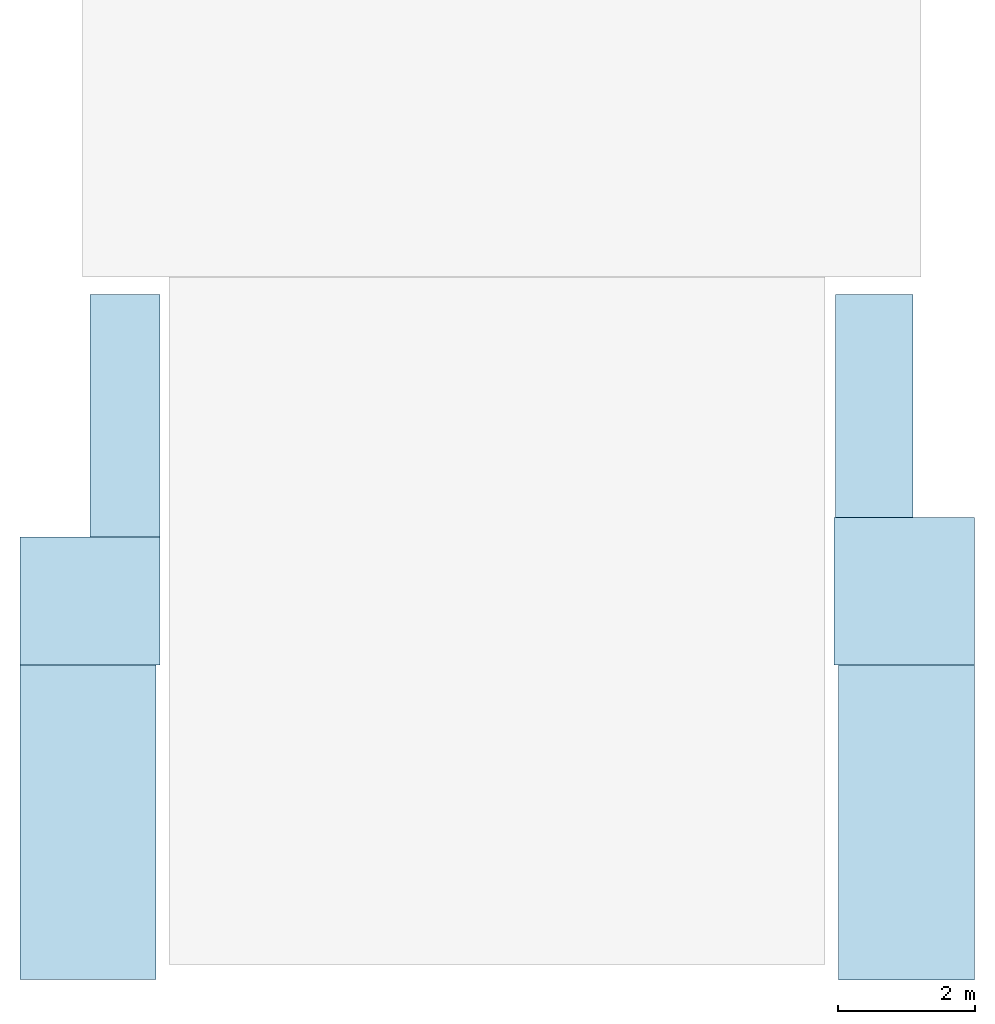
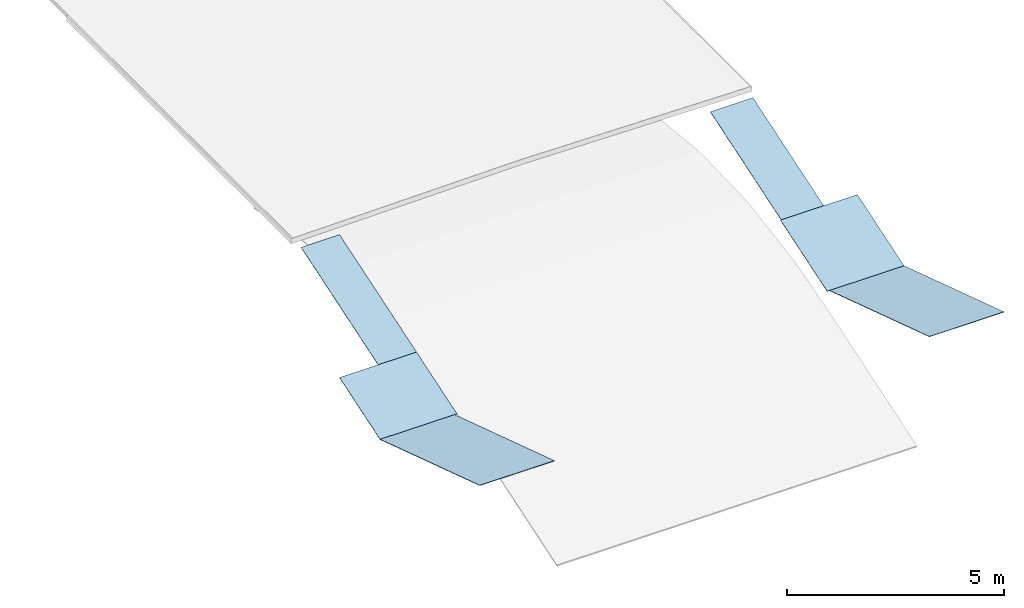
# One storey, part 1 of 3: 6 slabs, 6 elements without a shape of their own.
"""IFC2X3 building model written with IfcOpenShell, lengths in millimetres."""

from ifc_helpers import new_model, entity, si_unit, converted_unit, derived_unit, direction, frame, frame_2d, origin, place, context, subcontext, project, spatial, rectangle, extrude, type_object, element, aggregate, save


model = new_model("IFC2X3")

# Units and contexts
model_context = context("Model", 3, precision=0.01, world=origin(), true_north=direction((6.12303176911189e-17, 1.0)))
body_context = subcontext(model_context, "Body", "Model", "MODEL_VIEW")
ifc_project = project(units=[si_unit("LENGTHUNIT", "METRE", prefix="MILLI"), si_unit("AREAUNIT", "SQUARE_METRE"), si_unit("VOLUMEUNIT", "CUBIC_METRE"), converted_unit("PLANEANGLEUNIT", "DEGREE", entity("IfcRatioMeasure", 0.0174532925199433), si_unit("PLANEANGLEUNIT", "RADIAN"), dimensions=[0, 0, 0, 0, 0, 0, 0]), si_unit("MASSUNIT", "GRAM", prefix="KILO"), derived_unit("MASSDENSITYUNIT", [(si_unit("MASSUNIT", "GRAM", prefix="KILO"), 1), (si_unit("LENGTHUNIT", "METRE"), -3)]), derived_unit("MOMENTOFINERTIAUNIT", [(si_unit("LENGTHUNIT", "METRE"), 4)]), si_unit("TIMEUNIT", "SECOND"), si_unit("FREQUENCYUNIT", "HERTZ"), si_unit("THERMODYNAMICTEMPERATUREUNIT", "DEGREE_CELSIUS"), derived_unit("THERMALTRANSMITTANCEUNIT", [(si_unit("MASSUNIT", "GRAM", prefix="KILO"), 1), (si_unit("THERMODYNAMICTEMPERATUREUNIT", "KELVIN"), -1), (si_unit("TIMEUNIT", "SECOND"), -3)]), derived_unit("VOLUMETRICFLOWRATEUNIT", [(si_unit("LENGTHUNIT", "METRE"), 3), (si_unit("TIMEUNIT", "SECOND"), -1)]), si_unit("ELECTRICCURRENTUNIT", "AMPERE"), si_unit("ELECTRICVOLTAGEUNIT", "VOLT"), si_unit("POWERUNIT", "WATT"), si_unit("FORCEUNIT", "NEWTON", prefix="KILO"), si_unit("ILLUMINANCEUNIT", "LUX"), si_unit("LUMINOUSFLUXUNIT", "LUMEN"), si_unit("LUMINOUSINTENSITYUNIT", "CANDELA"), derived_unit("USERDEFINED", [(si_unit("MASSUNIT", "GRAM", prefix="KILO"), -1), (si_unit("LENGTHUNIT", "METRE"), -2), (si_unit("TIMEUNIT", "SECOND"), 3), (si_unit("LUMINOUSFLUXUNIT", "LUMEN"), 1)]), derived_unit("LINEARVELOCITYUNIT", [(si_unit("LENGTHUNIT", "METRE"), 1), (si_unit("TIMEUNIT", "SECOND"), -1)]), si_unit("PRESSUREUNIT", "PASCAL"), derived_unit("USERDEFINED", [(si_unit("LENGTHUNIT", "METRE"), -2), (si_unit("MASSUNIT", "GRAM", prefix="KILO"), 1), (si_unit("TIMEUNIT", "SECOND"), -2)]), derived_unit("LINEARFORCEUNIT", [(si_unit("MASSUNIT", "GRAM", prefix="KILO"), 1), (si_unit("LENGTHUNIT", "METRE"), 1), (si_unit("TIMEUNIT", "SECOND"), -2), (si_unit("LENGTHUNIT", "METRE"), -1)]), derived_unit("PLANARFORCEUNIT", [(si_unit("MASSUNIT", "GRAM", prefix="KILO"), 1), (si_unit("LENGTHUNIT", "METRE"), 1), (si_unit("TIMEUNIT", "SECOND"), -2), (si_unit("LENGTHUNIT", "METRE"), -2)])], contexts=[model_context])

# Site, building, storey
site_placement = place(None, origin())
site = spatial("IfcSite", under=ifc_project, at=site_placement, Name="Default", CompositionType="ELEMENT")
building_placement = place(site_placement, origin())
building = spatial("IfcBuilding", under=site, at=building_placement, Name="-", CompositionType="ELEMENT")
storey_placement = place(building_placement, frame((0.0, 0.0, 18000.0)))
storey = spatial("IfcBuildingStorey", under=building, at=storey_placement, Name="06 zesde verdieping", CompositionType="ELEMENT", Elevation=18000.0000000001)

# Roof, slab
roof_1_placement = place(storey_placement, frame((28798.6948343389, 6636.72836228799, -12962.2402823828)))
roof_1 = element("IfcRoof", 1, at=roof_1_placement, inside=storey, Name="Basic Roof:NLRS_27_Plafond bekleding mf zaal", ObjectType="Basic Roof:NLRS_27_Plafond bekleding mf zaal", ShapeType="NOTDEFINED")
slab_type_1 = type_object("IfcSlabType", Name="Basic Roof:NLRS_27_Plafond bekleding mf zaal", PredefinedType="ROOF")
slab_1_placement = place(roof_1_placement, origin())
slab_1 = element("IfcSlab", 2, at=slab_1_placement, type_object=slab_type_1, Name="Basic Roof:NLRS_27_Plafond bekleding mf zaal", ObjectType="Basic Roof:NLRS_27_Plafond bekleding mf zaal", PredefinedType="NOTDEFINED", context=body_context, shape_type="SweptSolid", body=[
    extrude(rectangle(XDim=1020.12078542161, YDim=3720.79568416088, at=frame_2d((2.1600499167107e-12, -6.82121026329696e-13), x_axis=(-1.0, 0.0))), frame((510.060392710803, 1769.34349061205, 574.894549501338), z_axis=(0.0, -0.309016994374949, 0.951056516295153), x_axis=(1.0, 0.0, 0.0)), (0.0, 0.309016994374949, 0.951056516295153), 12.6175466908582),
])
aggregate(roof_1, [slab_1])

roof_2_placement = place(storey_placement, frame((27774.8462249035, 186.771190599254, -13566.951409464)))
roof_2 = element("IfcRoof", 3, at=roof_2_placement, inside=storey, Name="Basic Roof:NLRS_27_Plafond bekleding mf zaal", ObjectType="Basic Roof:NLRS_27_Plafond bekleding mf zaal", ShapeType="NOTDEFINED")
slab_type_2 = type_object("IfcSlabType", Name="Basic Roof:NLRS_27_Plafond bekleding mf zaal", PredefinedType="ROOF")
slab_2_placement = place(roof_2_placement, origin())
slab_2 = element("IfcSlab", 4, at=slab_2_placement, type_object=slab_type_2, Name="Basic Roof:NLRS_27_Plafond bekleding mf zaal", ObjectType="Basic Roof:NLRS_27_Plafond bekleding mf zaal", PredefinedType="NOTDEFINED", context=body_context, shape_type="SweptSolid", body=[
    extrude(rectangle(XDim=1980.0, YDim=4825.0, at=frame_2d((0.0, -2.27373675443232e-13), x_axis=(-1.0, 0.0))), frame((990.0, 2294.42384556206, 745.50349892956), z_axis=(0.0, 0.309016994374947, 0.951056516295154), x_axis=(1.0, 0.0, 0.0)), (0.0, -0.309016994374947, 0.951056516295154), 12.6175466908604),
])
aggregate(roof_2, [slab_2])

roof_3_placement = place(storey_placement, frame((27774.8462249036, 4775.61888172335, -13566.951409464)))
roof_3 = element("IfcRoof", 5, at=roof_3_placement, inside=storey, Name="Basic Roof:NLRS_27_Plafond bekleding mf zaal", ObjectType="Basic Roof:NLRS_27_Plafond bekleding mf zaal", ShapeType="NOTDEFINED")
slab_type_3 = type_object("IfcSlabType", Name="Basic Roof:NLRS_27_Plafond bekleding mf zaal", PredefinedType="ROOF")
slab_3_placement = place(roof_3_placement, origin())
slab_3 = element("IfcSlab", 6, at=slab_3_placement, type_object=slab_type_3, Name="Basic Roof:NLRS_27_Plafond bekleding mf zaal", ObjectType="Basic Roof:NLRS_27_Plafond bekleding mf zaal", PredefinedType="NOTDEFINED", context=body_context, shape_type="SweptSolid", body=[
    extrude(rectangle(XDim=2043.96939485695, YDim=1956.88631398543, at=frame_2d((0.0, 0.0), x_axis=(-1.0, 0.0))), frame((1021.98469742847, 930.554740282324, 302.355563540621), z_axis=(0.0, -0.309016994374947, 0.951056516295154), x_axis=(1.0, 0.0, 0.0)), (0.0, 0.309016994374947, 0.951056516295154), 12.6175466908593),
])
aggregate(roof_3, [slab_3])

roof_4_placement = place(storey_placement, frame((39707.2859170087, 182.015908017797, -13566.951409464)))
roof_4 = element("IfcRoof", 7, at=roof_4_placement, inside=storey, Name="Basic Roof:NLRS_27_Plafond bekleding mf zaal", ObjectType="Basic Roof:NLRS_27_Plafond bekleding mf zaal", ShapeType="NOTDEFINED")
slab_type_4 = type_object("IfcSlabType", Name="Basic Roof:NLRS_27_Plafond bekleding mf zaal", PredefinedType="ROOF")
slab_4_placement = place(roof_4_placement, origin())
slab_4 = element("IfcSlab", 8, at=slab_4_placement, type_object=slab_type_4, Name="Basic Roof:NLRS_27_Plafond bekleding mf zaal", ObjectType="Basic Roof:NLRS_27_Plafond bekleding mf zaal", PredefinedType="NOTDEFINED", context=body_context, shape_type="SweptSolid", body=[
    extrude(rectangle(XDim=1980.0, YDim=4830.0, at=frame_2d((4.32009983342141e-12, -4.54747350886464e-13), x_axis=(-1.0, 0.0))), frame((990.0, 2296.8014868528, 746.276041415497), z_axis=(0.0, 0.309016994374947, 0.951056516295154), x_axis=(1.0, 0.0, 0.0)), (0.0, -0.309016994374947, 0.951056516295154), 12.6175466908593),
])
aggregate(roof_4, [slab_4])

roof_5_placement = place(storey_placement, frame((39643.3165221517, 4775.61888172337, -13566.951409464)))
roof_5 = element("IfcRoof", 9, at=roof_5_placement, inside=storey, Name="Basic Roof:NLRS_27_Plafond bekleding mf zaal", ObjectType="Basic Roof:NLRS_27_Plafond bekleding mf zaal", ShapeType="NOTDEFINED")
slab_type_5 = type_object("IfcSlabType", Name="Basic Roof:NLRS_27_Plafond bekleding mf zaal", PredefinedType="ROOF")
slab_5_placement = place(roof_5_placement, origin())
slab_5 = element("IfcSlab", 10, at=slab_5_placement, type_object=slab_type_5, Name="Basic Roof:NLRS_27_Plafond bekleding mf zaal", ObjectType="Basic Roof:NLRS_27_Plafond bekleding mf zaal", PredefinedType="NOTDEFINED", context=body_context, shape_type="SweptSolid", body=[
    extrude(rectangle(XDim=2043.96939485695, YDim=2255.6144495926, at=frame_2d((0.0, -5.6843418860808e-13), x_axis=(-1.0, 0.0))), frame((1021.98469742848, 1072.60841026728, 348.511598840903), z_axis=(0.0, -0.309016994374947, 0.951056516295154), x_axis=(1.0, 0.0, 0.0)), (0.0, 0.309016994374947, 0.951056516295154), 12.6175466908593),
])
aggregate(roof_5, [slab_5])

roof_6_placement = place(storey_placement, frame((39662.384814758, 6920.83570225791, -12869.9282117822)))
roof_6 = element("IfcRoof", 11, at=roof_6_placement, inside=storey, Name="Basic Roof:NLRS_27_Plafond bekleding mf zaal", ObjectType="Basic Roof:NLRS_27_Plafond bekleding mf zaal", ShapeType="NOTDEFINED")
slab_type_6 = type_object("IfcSlabType", Name="Basic Roof:NLRS_27_Plafond bekleding mf zaal", PredefinedType="ROOF")
slab_6_placement = place(roof_6_placement, origin())
slab_6 = element("IfcSlab", 12, at=slab_6_placement, type_object=slab_type_6, Name="Basic Roof:NLRS_27_Plafond bekleding mf zaal", ObjectType="Basic Roof:NLRS_27_Plafond bekleding mf zaal", PredefinedType="NOTDEFINED", context=body_context, shape_type="SweptSolid", body=[
    extrude(rectangle(XDim=1130.68199570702, YDim=3425.0, at=frame_2d((4.32009983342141e-12, -5.6843418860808e-13), x_axis=(-1.0, 0.0))), frame((565.340997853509, 1628.68428415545, 529.191602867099), z_axis=(0.0, -0.309016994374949, 0.951056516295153), x_axis=(1.0, 0.0, 0.0)), (0.0, 0.309016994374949, 0.951056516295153), 12.6175466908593),
])
aggregate(roof_6, [slab_6])

save(model, "model.ifc")
